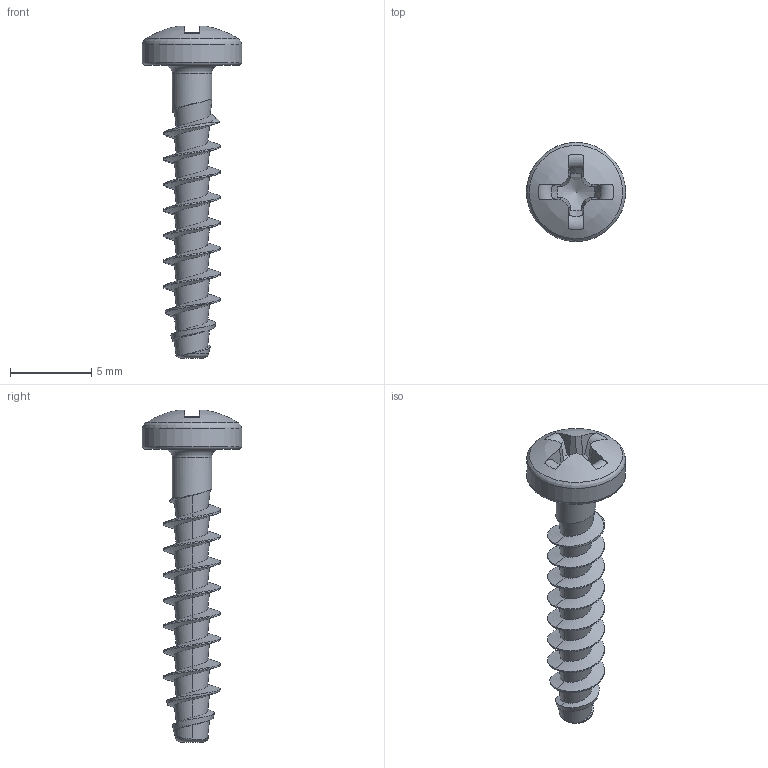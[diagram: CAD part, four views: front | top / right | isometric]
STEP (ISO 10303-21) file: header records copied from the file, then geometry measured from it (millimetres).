
FILE_DESCRIPTION(/* description */ (''),/* implementation_level */ '2;1');
FILE_NAME(/* name */ 'KN1032-Neu-STS-35x18-H2.step',/* time_stamp */ '2018-08-15T15:45:44+02:00',/* author */ (''),/* organization */ (''),/* preprocessor_version */ 'ST-DEVELOPER v16',/* originating_system */ 'SIEMENS PLM Software NX 10.0',/* authorisation */ '');
FILE_SCHEMA (('AUTOMOTIVE_DESIGN { 1 0 10303 214 3 1 1 1 }'));
Length unit declared in the file: millimetre
Products named in the file (1): KN1032-STS-35x18-H2
Bounding box: 6.1 x 6.1 x 20.42 mm (x, y, z)
Volume: 128.8 mm3; surface area: 308.2 mm2
Topology: 1 solids, 1 shells, 70 faces, 181 edges, 113 vertices
Faces by surface type: bspline 32, plane 18, torus 8, cone 7, cylinder 4, sphere 1
Full cylindrical faces by diameter (mm): 2.44 x1, 6.1 x1
Entity records: 4107 total; most frequent: CARTESIAN_POINT 2705, ORIENTED_EDGE 330, DIRECTION 195, EDGE_CURVE 165, VERTEX_POINT 107, B_SPLINE_CURVE_WITH_KNOTS 85, EDGE_LOOP 77, AXIS2_PLACEMENT_3D 77
